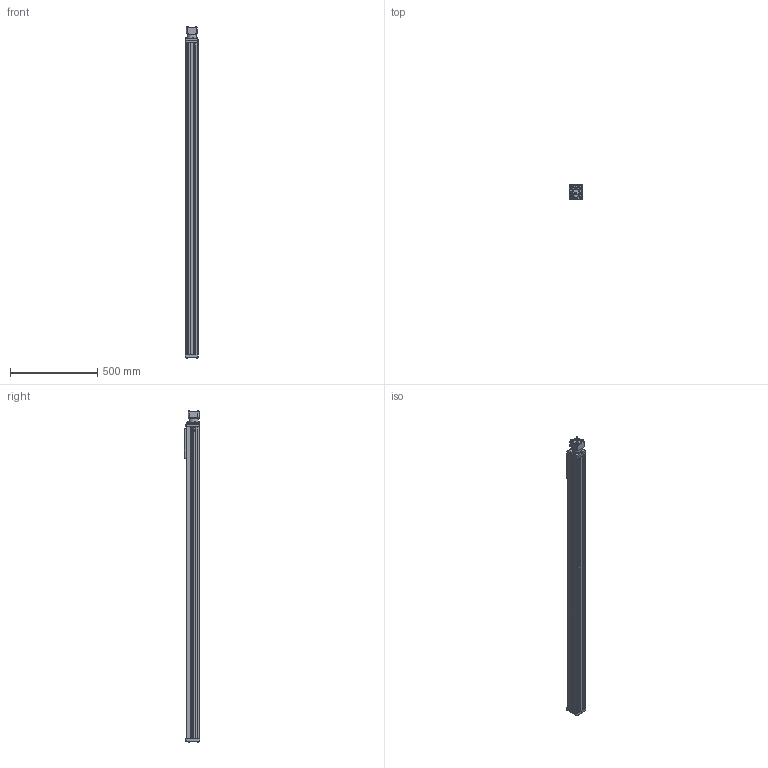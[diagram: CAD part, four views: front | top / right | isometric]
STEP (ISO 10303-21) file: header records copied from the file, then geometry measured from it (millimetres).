
FILE_DESCRIPTION (( 'STEP AP203' ), '1' );
FILE_NAME ('B3S15_SN12_SM1600.000_B3S-477236-1.step', '2024-12-20T13:48:12', ( '' ), ( '' ), 'SwSTEP 2.0', 'SolidWorks 2024', '' );
FILE_SCHEMA (( 'CONFIG_CONTROL_DESIGN' ));
Length unit declared in the file: inch
Products named in the file (5): B3S15_SN12_SM1600.000_B3S-477236-1; 34159810_B3S15_SN12_SM1600.000_B3S-477236-1; Base_B3S15_SN12_SM1600.000_B3S-477236-1; 44159070_B3S15_SN12_SM1600.000_B3S-477236-1; tempJoin6_45109054_B3S15_SN12_SM1600.000_B3S-477236-1
Assembly tree (5 placements, depth 2):
  B3S15_SN12_SM1600.000_B3S-477236-1
    44159070_B3S15_SN12_SM1600.000_B3S-477236-1
    34159810_B3S15_SN12_SM1600.000_B3S-477236-1  x2
    tempJoin6_45109054_B3S15_SN12_SM1600.000_B3S-477236-1
    Base_B3S15_SN12_SM1600.000_B3S-477236-1
Bounding box: 78.91 x 88.09 x 1902.09 mm (x, y, z)
Volume: 8898871.1 mm3; surface area: 1025169.6 mm2
Topology: 9 solids, 27 shells, 1648 faces, 4198 edges, 2746 vertices
Faces by surface type: plane 1104, cylinder 311, bspline 116, cone 54, torus 35, sphere 28
Full cylindrical faces by diameter (mm): 2.846 x4, 2.997 x6, 3.299 x4, 3.81 x2, 4 x9, 4.2 x8, 4.318 x1, 4.762 x2, 4.768 x2, 4.801 x2, 5 x16, 5.33 x4, 5.334 x4, 5.5 x4, 5.69 x4, 5.944 x4, 6 x4, 6.02 x2, 7 x5, 7.112 x4, 7.925 x2, 8.5 x8, 8.89 x4, 10 x4, 10.668 x4, 11.887 x4, 14 x1, 17.78 x1, 21.844 x1, 32.023 x1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
Entity records: 49139 total; most frequent: CARTESIAN_POINT 14726, ORIENTED_EDGE 6860, DIRECTION 6737, EDGE_CURVE 3430, VERTEX_POINT 2329, LINE 2311, VECTOR 2311, AXIS2_PLACEMENT_3D 2213
